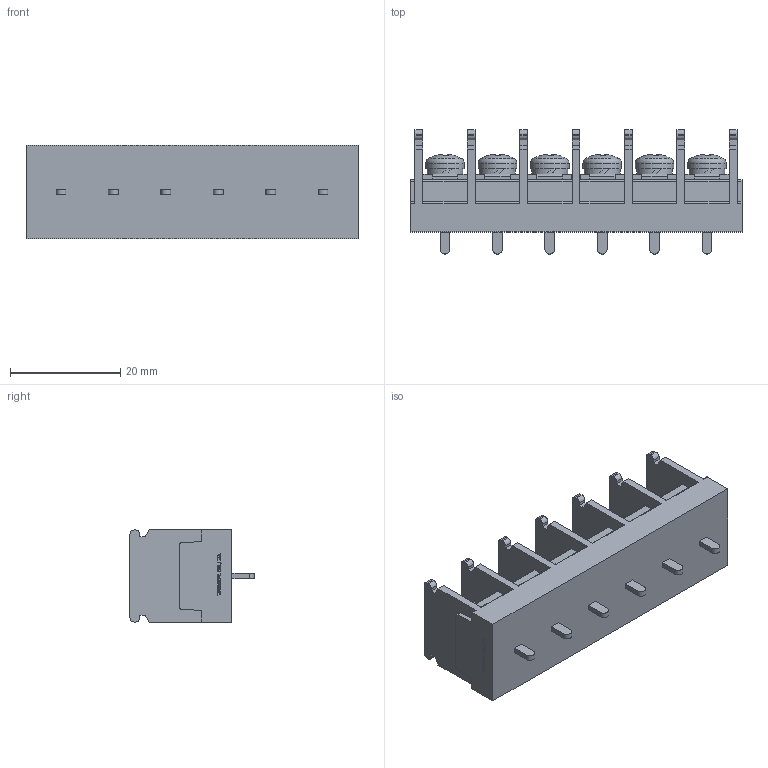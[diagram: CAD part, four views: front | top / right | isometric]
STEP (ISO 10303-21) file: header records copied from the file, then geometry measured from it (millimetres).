
FILE_DESCRIPTION(/* description */ ('Alibre Inc.'),/* implementation_level */ '2;1');
FILE_NAME(/* name */ 'export-92656D0F-3E66-47A0-96C7-A879A91EB285',/* time_stamp */ '2020-11-04T18:12:17+09:00',/* author */ (''),/* organization */ (''),/* preprocessor_version */ 'ST-DEVELOPER v17',/* originating_system */ 'Alibre',/* authorisation */ '');
FILE_SCHEMA (('CONFIG_CONTROL_DESIGN'));
Length unit declared in the file: millimetre
Bounding box: 60.2 x 22.5 x 17 mm (x, y, z)
Volume: 11114.8 mm3; surface area: 7423.2 mm2
Topology: 1 solids, 23 shells, 902 faces, 2436 edges, 1618 vertices
Faces by surface type: plane 648, bspline 104, cylinder 102, cone 30, torus 12, sphere 6
Full cylindrical faces by diameter (mm): 4 x12, 6.5 x6, 7 x6
Entity records: 27195 total; most frequent: CARTESIAN_POINT 5944, ORIENTED_EDGE 4752, DIRECTION 3414, EDGE_CURVE 2376, VECTOR 1694, LINE 1694, VERTEX_POINT 1594, AXIS2_PLACEMENT_3D 1168
